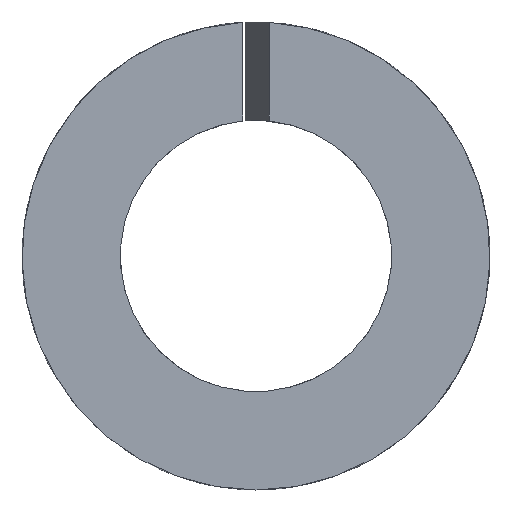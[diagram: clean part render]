
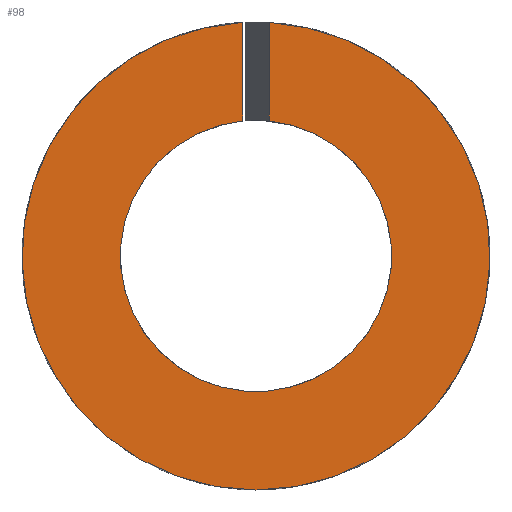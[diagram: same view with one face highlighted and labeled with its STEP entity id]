
A CAD part, left-side view. The second image highlights one B-rep face of the part: STEP entity #98.
In plain terms, the highlighted planar face has unit normal (-1, 0, 0).
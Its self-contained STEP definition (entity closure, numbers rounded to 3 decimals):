
#19=CIRCLE('',#132,5.1);
#20=CIRCLE('',#134,8.8);
#26=FACE_OUTER_BOUND('',#32,.T.);
#32=EDGE_LOOP('',(#85,#86,#87,#88));
#34=LINE('',#179,#38);
#35=LINE('',#185,#39);
#38=VECTOR('',#145,10.);
#39=VECTOR('',#150,10.);
#46=VERTEX_POINT('',#173);
#48=VERTEX_POINT('',#177);
#49=VERTEX_POINT('',#181);
#51=VERTEX_POINT('',#184);
#56=EDGE_CURVE('',#46,#48,#34,.T.);
#58=EDGE_CURVE('',#51,#49,#35,.T.);
#63=EDGE_CURVE('',#49,#46,#19,.T.);
#64=EDGE_CURVE('',#48,#51,#20,.T.);
#85=ORIENTED_EDGE('',*,*,#58,.T.);
#86=ORIENTED_EDGE('',*,*,#63,.T.);
#87=ORIENTED_EDGE('',*,*,#56,.T.);
#88=ORIENTED_EDGE('',*,*,#64,.T.);
#92=PLANE('',#135);
#98=ADVANCED_FACE('',(#26),#92,.T.);
#132=AXIS2_PLACEMENT_3D('',#193,#162,#163);
#134=AXIS2_PLACEMENT_3D('',#195,#166,#167);
#135=AXIS2_PLACEMENT_3D('',#196,#168,#169);
#145=DIRECTION('',(0.,0.,1.));
#150=DIRECTION('',(0.,0.,-1.));
#162=DIRECTION('center_axis',(1.,0.,0.));
#163=DIRECTION('ref_axis',(0.,-1.,0.));
#166=DIRECTION('center_axis',(-1.,0.,0.));
#167=DIRECTION('ref_axis',(0.,-1.,0.));
#168=DIRECTION('center_axis',(-1.,0.,0.));
#169=DIRECTION('ref_axis',(0.,0.,1.));
#173=CARTESIAN_POINT('',(0.,0.5,5.075));
#177=CARTESIAN_POINT('',(0.,0.5,8.786));
#179=CARTESIAN_POINT('',(0.,0.5,0.));
#181=CARTESIAN_POINT('',(0.,-0.5,5.075));
#184=CARTESIAN_POINT('',(0.,-0.5,8.786));
#185=CARTESIAN_POINT('',(0.,-0.5,0.));
#193=CARTESIAN_POINT('Origin',(0.,0.,0.));
#195=CARTESIAN_POINT('Origin',(0.,0.,0.));
#196=CARTESIAN_POINT('Origin',(0.,0.,0.));
